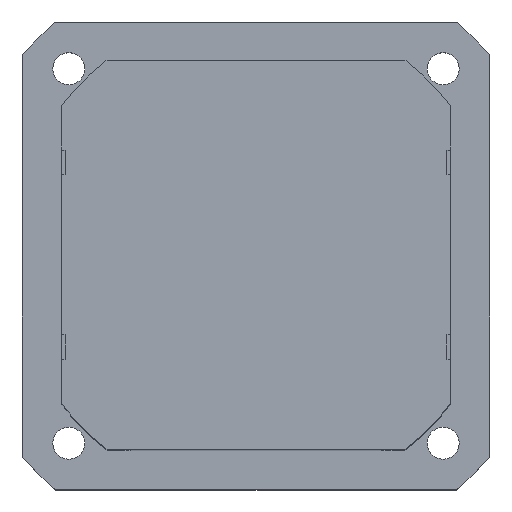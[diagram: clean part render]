
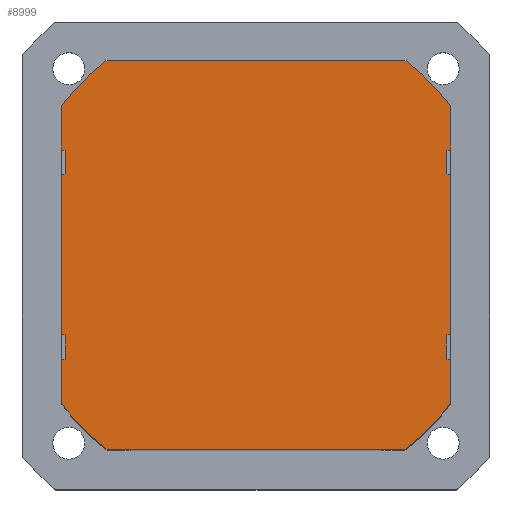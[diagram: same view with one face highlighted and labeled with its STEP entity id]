
A CAD part, top view. The second image highlights one B-rep face of the part: STEP entity #8999.
In plain terms, the highlighted planar face has unit normal (0, 0, 1).
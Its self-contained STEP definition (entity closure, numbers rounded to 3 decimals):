
#2044=CIRCLE('',#9896,99.5);
#2045=CIRCLE('',#9897,99.5);
#2046=CIRCLE('',#9898,99.5);
#2047=CIRCLE('',#9899,99.5);
#2528=VERTEX_POINT('',#12800);
#2529=VERTEX_POINT('',#12801);
#2530=VERTEX_POINT('',#12803);
#2531=VERTEX_POINT('',#12805);
#2532=VERTEX_POINT('',#12807);
#2533=VERTEX_POINT('',#12809);
#2534=VERTEX_POINT('',#12811);
#2535=VERTEX_POINT('',#12813);
#2536=VERTEX_POINT('',#12815);
#2537=VERTEX_POINT('',#12817);
#2538=VERTEX_POINT('',#12819);
#2539=VERTEX_POINT('',#12821);
#2540=VERTEX_POINT('',#12823);
#2541=VERTEX_POINT('',#12825);
#2542=VERTEX_POINT('',#12827);
#2543=VERTEX_POINT('',#12829);
#2544=VERTEX_POINT('',#12831);
#2545=VERTEX_POINT('',#12833);
#2546=VERTEX_POINT('',#12835);
#2547=VERTEX_POINT('',#12837);
#2548=VERTEX_POINT('',#12839);
#2549=VERTEX_POINT('',#12841);
#2550=VERTEX_POINT('',#12843);
#2551=VERTEX_POINT('',#12845);
#3422=LINE('',#12799,#10891);
#3423=LINE('',#12804,#10892);
#3424=LINE('',#12806,#10893);
#3425=LINE('',#12808,#10894);
#3426=LINE('',#12810,#10895);
#3427=LINE('',#12812,#10896);
#3428=LINE('',#12814,#10897);
#3429=LINE('',#12816,#10898);
#3430=LINE('',#12818,#10899);
#3431=LINE('',#12820,#10900);
#3432=LINE('',#12824,#10901);
#3433=LINE('',#12828,#10902);
#3434=LINE('',#12830,#10903);
#3435=LINE('',#12832,#10904);
#3436=LINE('',#12834,#10905);
#3437=LINE('',#12836,#10906);
#3438=LINE('',#12838,#10907);
#3439=LINE('',#12840,#10908);
#3440=LINE('',#12842,#10909);
#3441=LINE('',#12844,#10910);
#4236=EDGE_CURVE('',#2528,#2529,#3422,.T.);
#4237=EDGE_CURVE('',#2530,#2528,#2044,.T.);
#4238=EDGE_CURVE('',#2531,#2530,#3423,.T.);
#4239=EDGE_CURVE('',#2532,#2531,#3424,.T.);
#4240=EDGE_CURVE('',#2533,#2532,#3425,.T.);
#4241=EDGE_CURVE('',#2534,#2533,#3426,.T.);
#4242=EDGE_CURVE('',#2535,#2534,#3427,.T.);
#4243=EDGE_CURVE('',#2536,#2535,#3428,.T.);
#4244=EDGE_CURVE('',#2537,#2536,#3429,.T.);
#4245=EDGE_CURVE('',#2538,#2537,#3430,.T.);
#4246=EDGE_CURVE('',#2539,#2538,#3431,.T.);
#4247=EDGE_CURVE('',#2540,#2539,#2045,.T.);
#4248=EDGE_CURVE('',#2541,#2540,#3432,.T.);
#4249=EDGE_CURVE('',#2542,#2541,#2046,.T.);
#4250=EDGE_CURVE('',#2543,#2542,#3433,.T.);
#4251=EDGE_CURVE('',#2544,#2543,#3434,.T.);
#4252=EDGE_CURVE('',#2545,#2544,#3435,.T.);
#4253=EDGE_CURVE('',#2546,#2545,#3436,.T.);
#4254=EDGE_CURVE('',#2547,#2546,#3437,.T.);
#4255=EDGE_CURVE('',#2548,#2547,#3438,.T.);
#4256=EDGE_CURVE('',#2549,#2548,#3439,.T.);
#4257=EDGE_CURVE('',#2550,#2549,#3440,.T.);
#4258=EDGE_CURVE('',#2551,#2550,#3441,.T.);
#4259=EDGE_CURVE('',#2529,#2551,#2047,.T.);
#5654=ORIENTED_EDGE('',*,*,#4236,.F.);
#5655=ORIENTED_EDGE('',*,*,#4237,.F.);
#5656=ORIENTED_EDGE('',*,*,#4238,.F.);
#5657=ORIENTED_EDGE('',*,*,#4239,.F.);
#5658=ORIENTED_EDGE('',*,*,#4240,.F.);
#5659=ORIENTED_EDGE('',*,*,#4241,.F.);
#5660=ORIENTED_EDGE('',*,*,#4242,.F.);
#5661=ORIENTED_EDGE('',*,*,#4243,.F.);
#5662=ORIENTED_EDGE('',*,*,#4244,.F.);
#5663=ORIENTED_EDGE('',*,*,#4245,.F.);
#5664=ORIENTED_EDGE('',*,*,#4246,.F.);
#5665=ORIENTED_EDGE('',*,*,#4247,.F.);
#5666=ORIENTED_EDGE('',*,*,#4248,.F.);
#5667=ORIENTED_EDGE('',*,*,#4249,.F.);
#5668=ORIENTED_EDGE('',*,*,#4250,.F.);
#5669=ORIENTED_EDGE('',*,*,#4251,.F.);
#5670=ORIENTED_EDGE('',*,*,#4252,.F.);
#5671=ORIENTED_EDGE('',*,*,#4253,.F.);
#5672=ORIENTED_EDGE('',*,*,#4254,.F.);
#5673=ORIENTED_EDGE('',*,*,#4255,.F.);
#5674=ORIENTED_EDGE('',*,*,#4256,.F.);
#5675=ORIENTED_EDGE('',*,*,#4257,.F.);
#5676=ORIENTED_EDGE('',*,*,#4258,.F.);
#5677=ORIENTED_EDGE('',*,*,#4259,.F.);
#7702=EDGE_LOOP('',(#5654,#5655,#5656,#5657,#5658,#5659,#5660,#5661,#5662,
#5663,#5664,#5665,#5666,#5667,#5668,#5669,#5670,#5671,#5672,#5673,#5674,
#5675,#5676,#5677));
#8366=FACE_BOUND('',#7702,.T.);
#8999=ADVANCED_FACE('',(#8366),#11547,.T.);
#9895=AXIS2_PLACEMENT_3D('',#12798,#16684,$);
#9896=AXIS2_PLACEMENT_3D('',#12802,#16686,#16687);
#9897=AXIS2_PLACEMENT_3D('',#12822,#16697,#16698);
#9898=AXIS2_PLACEMENT_3D('',#12826,#16700,#16701);
#9899=AXIS2_PLACEMENT_3D('',#12846,#16711,#16712);
#10891=VECTOR('',#16685,1.);
#10892=VECTOR('',#16688,1.);
#10893=VECTOR('',#16689,1.);
#10894=VECTOR('',#16690,1.);
#10895=VECTOR('',#16691,1.);
#10896=VECTOR('',#16692,1.);
#10897=VECTOR('',#16693,1.);
#10898=VECTOR('',#16694,1.);
#10899=VECTOR('',#16695,1.);
#10900=VECTOR('',#16696,1.);
#10901=VECTOR('',#16699,1.);
#10902=VECTOR('',#16702,1.);
#10903=VECTOR('',#16703,1.);
#10904=VECTOR('',#16704,1.);
#10905=VECTOR('',#16705,1.);
#10906=VECTOR('',#16706,1.);
#10907=VECTOR('',#16707,1.);
#10908=VECTOR('',#16708,1.);
#10909=VECTOR('',#16709,1.);
#10910=VECTOR('',#16710,1.);
#11547=PLANE('',#9895);
#12798=CARTESIAN_POINT('',(0.,0.,153.));
#12799=CARTESIAN_POINT('',(-60.492,-79.,153.));
#12800=CARTESIAN_POINT('',(60.492,-79.,153.));
#12801=CARTESIAN_POINT('',(-60.492,-79.,153.));
#12802=CARTESIAN_POINT('',(0.,0.,153.));
#12803=CARTESIAN_POINT('',(79.,-60.492,153.));
#12804=CARTESIAN_POINT('',(79.,-60.492,153.));
#12805=CARTESIAN_POINT('',(79.,-42.5,153.));
#12806=CARTESIAN_POINT('',(79.,-42.5,153.));
#12807=CARTESIAN_POINT('',(77.5,-42.5,153.));
#12808=CARTESIAN_POINT('',(77.5,-42.5,153.));
#12809=CARTESIAN_POINT('',(77.5,-32.5,153.));
#12810=CARTESIAN_POINT('',(77.5,-32.5,153.));
#12811=CARTESIAN_POINT('',(79.,-32.5,153.));
#12812=CARTESIAN_POINT('',(79.,-32.5,153.));
#12813=CARTESIAN_POINT('',(79.,32.5,153.));
#12814=CARTESIAN_POINT('',(79.,32.5,153.));
#12815=CARTESIAN_POINT('',(77.5,32.5,153.));
#12816=CARTESIAN_POINT('',(77.5,32.5,153.));
#12817=CARTESIAN_POINT('',(77.5,42.5,153.));
#12818=CARTESIAN_POINT('',(77.5,42.5,153.));
#12819=CARTESIAN_POINT('',(79.,42.5,153.));
#12820=CARTESIAN_POINT('',(79.,42.5,153.));
#12821=CARTESIAN_POINT('',(79.,60.492,153.));
#12822=CARTESIAN_POINT('',(0.,0.,153.));
#12823=CARTESIAN_POINT('',(60.492,79.,153.));
#12824=CARTESIAN_POINT('',(60.492,79.,153.));
#12825=CARTESIAN_POINT('',(-60.492,79.,153.));
#12826=CARTESIAN_POINT('',(0.,0.,153.));
#12827=CARTESIAN_POINT('',(-79.,60.492,153.));
#12828=CARTESIAN_POINT('',(-79.,60.492,153.));
#12829=CARTESIAN_POINT('',(-79.,42.5,153.));
#12830=CARTESIAN_POINT('',(-79.,42.5,153.));
#12831=CARTESIAN_POINT('',(-77.5,42.5,153.));
#12832=CARTESIAN_POINT('',(-77.5,42.5,153.));
#12833=CARTESIAN_POINT('',(-77.5,32.5,153.));
#12834=CARTESIAN_POINT('',(-77.5,32.5,153.));
#12835=CARTESIAN_POINT('',(-79.,32.5,153.));
#12836=CARTESIAN_POINT('',(-79.,32.5,153.));
#12837=CARTESIAN_POINT('',(-79.,-32.5,153.));
#12838=CARTESIAN_POINT('',(-79.,-32.5,153.));
#12839=CARTESIAN_POINT('',(-77.5,-32.5,153.));
#12840=CARTESIAN_POINT('',(-77.5,-32.5,153.));
#12841=CARTESIAN_POINT('',(-77.5,-42.5,153.));
#12842=CARTESIAN_POINT('',(-77.5,-42.5,153.));
#12843=CARTESIAN_POINT('',(-79.,-42.5,153.));
#12844=CARTESIAN_POINT('',(-79.,-42.5,153.));
#12845=CARTESIAN_POINT('',(-79.,-60.492,153.));
#12846=CARTESIAN_POINT('',(0.,0.,153.));
#16684=DIRECTION('',(0.,0.,1.));
#16685=DIRECTION('',(-1.,0.,0.));
#16686=DIRECTION('',(0.,0.,-1.));
#16687=DIRECTION('',(99.5,0.,0.));
#16688=DIRECTION('',(0.,-1.,0.));
#16689=DIRECTION('',(1.,0.,0.));
#16690=DIRECTION('',(0.,-1.,0.));
#16691=DIRECTION('',(-1.,0.,0.));
#16692=DIRECTION('',(0.,-1.,0.));
#16693=DIRECTION('',(1.,0.,0.));
#16694=DIRECTION('',(0.,-1.,0.));
#16695=DIRECTION('',(-1.,0.,0.));
#16696=DIRECTION('',(0.,-1.,0.));
#16697=DIRECTION('',(0.,0.,-1.));
#16698=DIRECTION('',(99.5,0.,0.));
#16699=DIRECTION('',(1.,0.,0.));
#16700=DIRECTION('',(0.,0.,-1.));
#16701=DIRECTION('',(99.5,0.,0.));
#16702=DIRECTION('',(0.,1.,0.));
#16703=DIRECTION('',(-1.,0.,0.));
#16704=DIRECTION('',(0.,1.,0.));
#16705=DIRECTION('',(1.,0.,0.));
#16706=DIRECTION('',(0.,1.,0.));
#16707=DIRECTION('',(-1.,0.,0.));
#16708=DIRECTION('',(0.,1.,0.));
#16709=DIRECTION('',(1.,0.,0.));
#16710=DIRECTION('',(0.,1.,0.));
#16711=DIRECTION('',(0.,0.,-1.));
#16712=DIRECTION('',(99.5,0.,0.));
